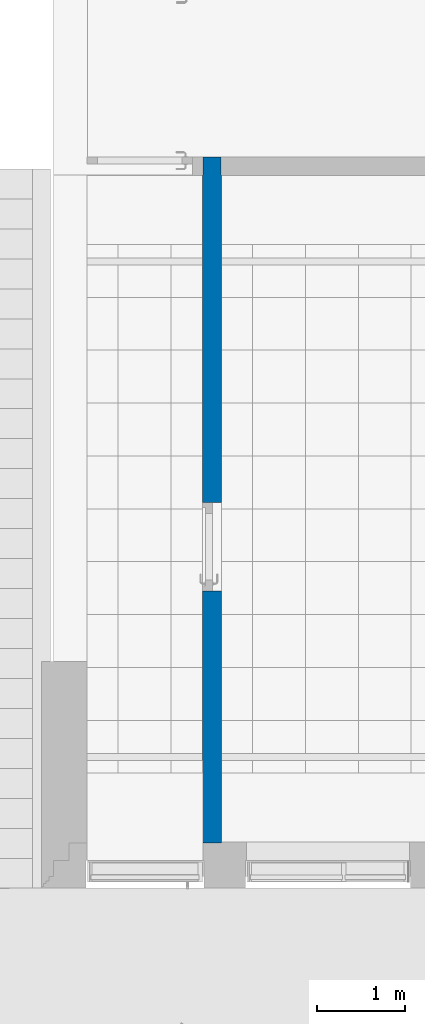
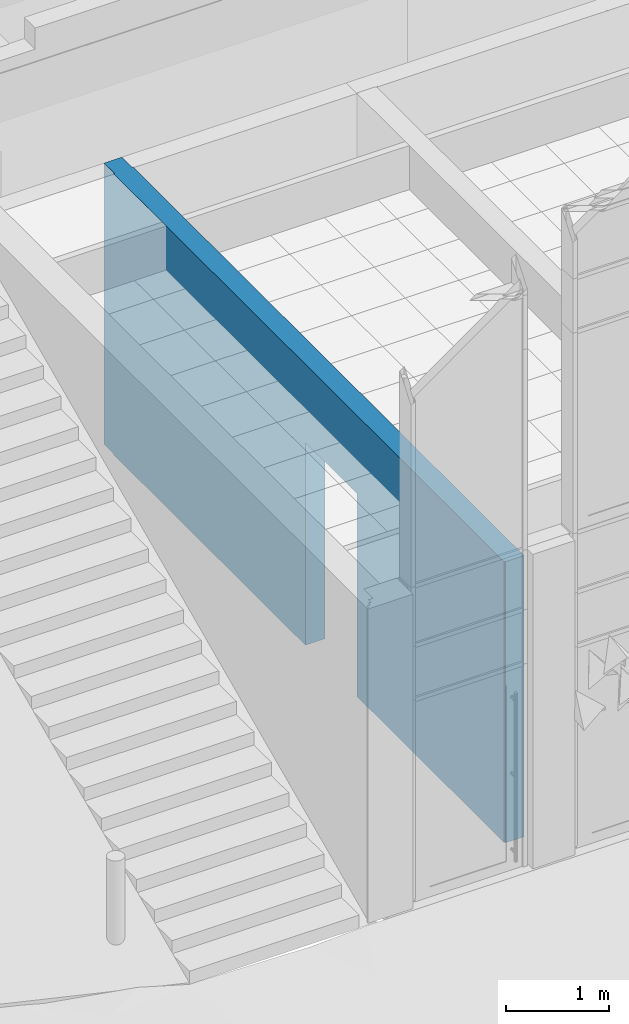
# One storey, part 113 of 246: 1 wall, 1 opening.
"""IFC2X3 building model written with IfcOpenShell, lengths in millimetres."""

from ifc_helpers import new_model, entity, si_unit, converted_unit, derived_unit, money_unit, direction, frame, origin_with_axes, place, context, subcontext, project, spatial, faceted_brep, material, material_list, type_object, element, save


model = new_model("IFC2X3")

# Units and contexts
model_context = context("Model", 3, precision=0.01, world=origin_with_axes(), true_north=direction((0.0, 1.0)))
body_context = subcontext(model_context, "Body", "Model", "MODEL_VIEW")
ifc_project = project(units=[si_unit("LENGTHUNIT", "METRE", prefix="MILLI"), si_unit("AREAUNIT", "SQUARE_METRE"), si_unit("VOLUMEUNIT", "CUBIC_METRE"), converted_unit("PLANEANGLEUNIT", "DEGREE", entity("IfcPlaneAngleMeasure", 0.0174532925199), si_unit("PLANEANGLEUNIT", "RADIAN"), dimensions=[0, 0, 0, 0, 0, 0, 0]), si_unit("SOLIDANGLEUNIT", "STERADIAN"), money_unit("EUR"), converted_unit("TIMEUNIT", "Year", entity("IfcTimeMeasure", 31556926.0), si_unit("TIMEUNIT", "SECOND"), dimensions=[0, 0, 1, 0, 0, 0, 0]), si_unit("MASSUNIT", "GRAM", prefix="KILO"), si_unit("THERMODYNAMICTEMPERATUREUNIT", "DEGREE_CELSIUS"), si_unit("LUMINOUSINTENSITYUNIT", "LUMEN"), si_unit("ENERGYUNIT", "JOULE", prefix="MEGA"), derived_unit("THERMALCONDUCTANCEUNIT", [(si_unit("POWERUNIT", "WATT"), 1), (si_unit("LENGTHUNIT", "METRE"), -1), (si_unit("THERMODYNAMICTEMPERATUREUNIT", "KELVIN"), -1)]), derived_unit("SPECIFICHEATCAPACITYUNIT", [(si_unit("ENERGYUNIT", "JOULE"), 1), (si_unit("MASSUNIT", "GRAM", prefix="KILO"), -1), (si_unit("THERMODYNAMICTEMPERATUREUNIT", "KELVIN"), -1)]), derived_unit("MASSDENSITYUNIT", [(si_unit("MASSUNIT", "GRAM", prefix="KILO"), 1), (si_unit("VOLUMEUNIT", "CUBIC_METRE"), -1)])], contexts=[model_context])

# Site, building, storey
site_placement = place(None, origin_with_axes())
site = spatial("IfcSite", under=ifc_project, at=site_placement, Name="L.Koidula tn 11b", CompositionType="ELEMENT")
building_placement = place(site_placement, origin_with_axes())
building = spatial("IfcBuilding", under=site, at=building_placement, Name="Rakvere Riigigümnaasium", CompositionType="ELEMENT")
storey_placement = place(building_placement, origin_with_axes())
storey = spatial("IfcBuildingStorey", under=building, at=storey_placement, Name="1.korrus 0,00", CompositionType="ELEMENT", Elevation=0.0)

# Wall, opening
ifc_material_1 = material(Name="siseviimistlus-seinad")
ifc_material_2 = material(Name="Betoon element / plaat")
ifc_material_list = material_list([ifc_material_1, ifc_material_2, ifc_material_1])
wall_type = type_object("IfcWallType", Name="SS-01-2 220", PredefinedType="NOTDEFINED")
wall_placement = place(storey_placement, frame((36820.0000005, 13280.4405239, 0.0), z_axis=(0.0, 0.0, 1.0), x_axis=(0.0, -1.0, 0.0)))
wall = element("IfcWall", 1, at=wall_placement, inside=storey, type_object=wall_type, material=ifc_material_list, Name="Sisesein", context=body_context, shape_type="Brep", body=[
    faceted_brep([(4919.99964869, 210.0, 0.0), (4919.99964869, 210.0, 2400.0), (3919.99964857, 210.0, 2400.0), (3919.99964857, 210.0, 0.0), (199.99958955, 210.0, 0.0), (199.99958955, 210.0, 3325.0), (7779.98498505, 210.0, 3325.0), (7779.98498508, 210.0, -5.03988628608e-07), (4919.99964869, 200.0, 0.0), (4919.99964869, 200.0, 2400.0), (3919.99964857, 200.0, 2400.0), (3919.99964857, 200.0, 0.0), (199.999592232, 200.0, 0.0), (199.999592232, 200.0, 3325.0), (7779.98498505, 200.0, 3325.0), (7779.98498508, 200.0, -5.01637842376e-07)], [[[0, 1, 2, 3, 4, 5, 6, 7]], [[1, 0, 8, 9]], [[2, 1, 9, 10]], [[3, 2, 10, 11]], [[3, 11, 12, 4]], [[5, 4, 12, 13]], [[5, 13, 14, 6]], [[14, 15, 7, 6]], [[8, 0, 7, 15]], [[9, 8, 15, 14, 13, 12, 11, 10]]]),
    faceted_brep([(3919.99964857, 200.0, 2400.0), (4919.99964869, 200.0, 2400.0), (4919.99964869, 0.0, 2400.0), (3919.99964857, 0.0, 2400.0), (-0.000407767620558, 200.0, 0.0), (-0.000407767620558, 200.0, 3325.0), (7779.98498505, 200.0, 3325.0), (7779.98498508, 200.0, -5.01638064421e-07), (4919.99964869, 200.0, 0.0), (3919.99964857, 200.0, 0.0), (4919.99964869, 0.0, 0.0), (7779.98498508, 0.0, -4.54624116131e-07), (7779.98498505, 0.0, 3325.0), (-0.000354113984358, 0.0, 3325.0), (-0.000354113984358, 0.0, 0.0), (3919.99964857, 0.0, 0.0)], [[[0, 1, 2, 3]], [[4, 5, 6, 7, 8, 1, 0, 9]], [[8, 10, 2, 1]], [[3, 2, 10, 11, 12, 13, 14, 15]], [[9, 0, 3, 15]], [[5, 4, 14, 13]], [[12, 6, 5, 13]], [[12, 11, 7, 6]], [[11, 10, 8, 7]], [[9, 15, 14, 4]]]),
    faceted_brep([(7769.98498508, -10.0, 3325.0), (7769.98498508, 0.0, 3325.0), (199.999645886, 0.0, 3325.0), (199.999648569, -10.0, 3325.0), (7769.98498508, 0.0, 0.0), (7769.98498508, -10.0, 0.0), (4919.99964869, 0.0, 0.0), (4919.99964869, 0.0, 2400.0), (3919.99964857, 0.0, 2400.0), (3919.99964857, 0.0, 0.0), (199.999645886, 0.0, 0.0), (199.999648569, -10.0, 0.0), (3919.99964857, -10.0, 0.0), (3919.99964857, -10.0, 2400.0), (4919.99964869, -10.0, 2400.0), (4919.99964869, -10.0, 0.0)], [[[0, 1, 2, 3]], [[4, 1, 0, 5]], [[1, 4, 6, 7, 8, 9, 10, 2]], [[3, 2, 10, 11]], [[5, 0, 3, 11, 12, 13, 14, 15]], [[4, 5, 15, 6]], [[14, 7, 6, 15]], [[13, 8, 7, 14]], [[12, 9, 8, 13]], [[10, 9, 12, 11]]]),
])
opening_placement = place(wall_placement, frame((4419.99964863, 0.0, 0.0), z_axis=(0.0, 0.0, 1.0), x_axis=(1.0, 0.0, 0.0)))
element("IfcOpeningElement", 2, at=opening_placement, cuts=wall, Name="SU-017", context=body_context, shape_type="Brep", body=[
    faceted_brep([(-500.000000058, 105.0, 2400.0), (-500.000000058, 105.0, 0.0), (-500.000000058, -230.0, 0.0), (-500.000000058, -230.0, 2400.0), (500.000000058, 105.0, 2400.0), (500.000000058, 105.0, 0.0), (500.000000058, -230.0, 0.0), (500.000000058, -230.0, 2400.0)], [[[0, 1, 2, 3]], [[0, 4, 5, 1]], [[1, 5, 6, 2]], [[3, 2, 6, 7]], [[4, 0, 3, 7]], [[5, 4, 7, 6]]]),
    faceted_brep([(-500.000000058, 105.0, 0.0), (-500.000000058, 105.0, 2400.0), (-500.000000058, 430.0, 2400.0), (-500.000000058, 430.0, 0.0), (500.000000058, 105.0, 0.0), (500.000000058, 105.0, 2400.0), (500.000000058, 430.0, 2400.0), (500.000000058, 430.0, 0.0)], [[[0, 1, 2, 3]], [[0, 4, 5, 1]], [[1, 5, 6, 2]], [[3, 2, 6, 7]], [[4, 0, 3, 7]], [[5, 4, 7, 6]]]),
])

save(model, "model.ifc")
